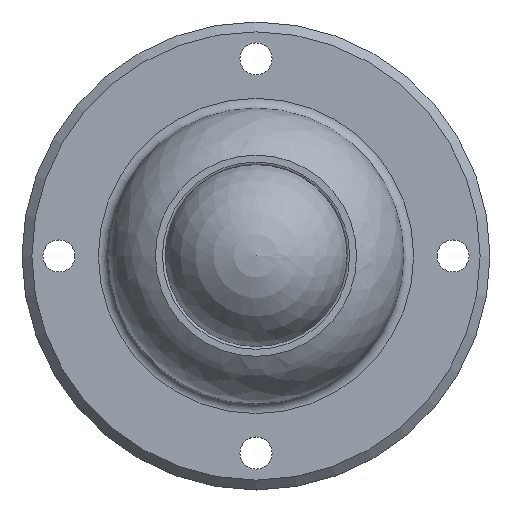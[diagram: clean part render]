
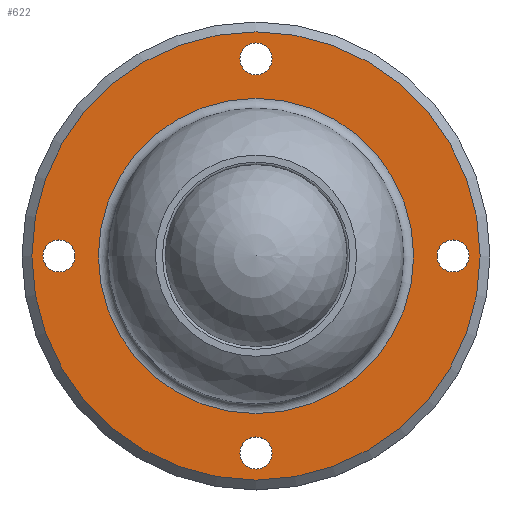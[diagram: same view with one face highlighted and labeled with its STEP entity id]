
A CAD part, top view. The second image highlights one B-rep face of the part: STEP entity #622.
In plain terms, the highlighted planar face has unit normal (0, 0, 1).
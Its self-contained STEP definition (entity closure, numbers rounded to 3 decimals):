
#70=FACE_BOUND('',#222,.T.);
#71=FACE_BOUND('',#223,.T.);
#72=FACE_BOUND('',#224,.T.);
#73=FACE_BOUND('',#225,.T.);
#74=FACE_BOUND('',#226,.T.);
#117=PLANE('',#706);
#152=FACE_OUTER_BOUND('',#221,.T.);
#221=EDGE_LOOP('',(#512));
#222=EDGE_LOOP('',(#513));
#223=EDGE_LOOP('',(#514));
#224=EDGE_LOOP('',(#515));
#225=EDGE_LOOP('',(#516));
#226=EDGE_LOOP('',(#517));
#266=CIRCLE('',#670,3.25);
#268=CIRCLE('',#673,3.25);
#270=CIRCLE('',#676,3.25);
#272=CIRCLE('',#679,3.25);
#284=CIRCLE('',#705,45.5);
#285=CIRCLE('',#707,32.);
#321=VERTEX_POINT('',#1000);
#323=VERTEX_POINT('',#1005);
#325=VERTEX_POINT('',#1010);
#327=VERTEX_POINT('',#1015);
#339=VERTEX_POINT('',#1053);
#340=VERTEX_POINT('',#1056);
#384=EDGE_CURVE('',#321,#321,#266,.T.);
#386=EDGE_CURVE('',#323,#323,#268,.T.);
#388=EDGE_CURVE('',#325,#325,#270,.T.);
#390=EDGE_CURVE('',#327,#327,#272,.T.);
#402=EDGE_CURVE('',#339,#339,#284,.T.);
#403=EDGE_CURVE('',#340,#340,#285,.T.);
#512=ORIENTED_EDGE('',*,*,#402,.T.);
#513=ORIENTED_EDGE('',*,*,#384,.T.);
#514=ORIENTED_EDGE('',*,*,#386,.T.);
#515=ORIENTED_EDGE('',*,*,#388,.T.);
#516=ORIENTED_EDGE('',*,*,#390,.T.);
#517=ORIENTED_EDGE('',*,*,#403,.F.);
#622=ADVANCED_FACE('',(#152,#70,#71,#72,#73,#74),#117,.T.);
#670=AXIS2_PLACEMENT_3D('',#1001,#812,#813);
#673=AXIS2_PLACEMENT_3D('',#1006,#818,#819);
#676=AXIS2_PLACEMENT_3D('',#1011,#824,#825);
#679=AXIS2_PLACEMENT_3D('',#1016,#830,#831);
#705=AXIS2_PLACEMENT_3D('',#1054,#882,#883);
#706=AXIS2_PLACEMENT_3D('',#1055,#884,#885);
#707=AXIS2_PLACEMENT_3D('',#1057,#886,#887);
#812=DIRECTION('center_axis',(0.,0.,-1.));
#813=DIRECTION('ref_axis',(0.,-1.,0.));
#818=DIRECTION('center_axis',(0.,0.,-1.));
#819=DIRECTION('ref_axis',(-1.,0.,0.));
#824=DIRECTION('center_axis',(0.,0.,-1.));
#825=DIRECTION('ref_axis',(0.,1.,0.));
#830=DIRECTION('center_axis',(0.,0.,-1.));
#831=DIRECTION('ref_axis',(1.,0.,0.));
#882=DIRECTION('center_axis',(0.,0.,1.));
#883=DIRECTION('ref_axis',(0.,-1.,0.));
#884=DIRECTION('center_axis',(0.,0.,1.));
#885=DIRECTION('ref_axis',(1.,0.,0.));
#886=DIRECTION('center_axis',(0.,0.,1.));
#887=DIRECTION('ref_axis',(0.,-1.,0.));
#1000=CARTESIAN_POINT('',(40.,-3.25,6.));
#1001=CARTESIAN_POINT('Origin',(40.,0.,
6.));
#1005=CARTESIAN_POINT('',(-3.25,-40.,6.));
#1006=CARTESIAN_POINT('Origin',(0.,-40.,
6.));
#1010=CARTESIAN_POINT('',(-40.,3.25,6.));
#1011=CARTESIAN_POINT('Origin',(-40.,0.,
6.));
#1015=CARTESIAN_POINT('',(3.25,40.,6.));
#1016=CARTESIAN_POINT('Origin',(0.,40.,6.));
#1053=CARTESIAN_POINT('',(0.,-45.5,6.));
#1054=CARTESIAN_POINT('Origin',(0.,0.,6.));
#1055=CARTESIAN_POINT('Origin',(0.,-38.75,6.));
#1056=CARTESIAN_POINT('',(0.,-32.,6.));
#1057=CARTESIAN_POINT('Origin',(0.,0.,6.));
